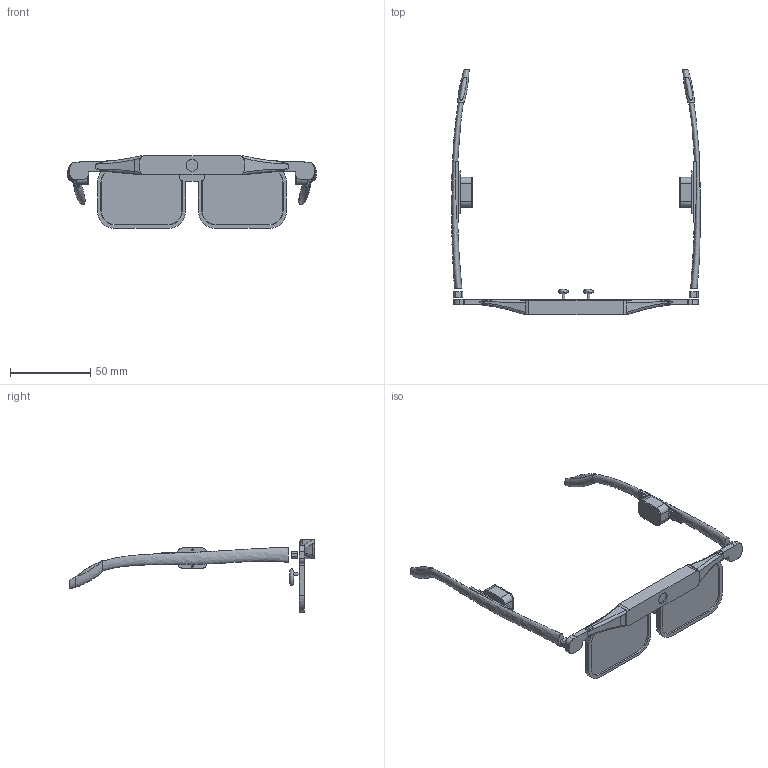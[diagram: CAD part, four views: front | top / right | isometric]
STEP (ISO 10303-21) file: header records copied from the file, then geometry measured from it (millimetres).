
FILE_DESCRIPTION(('FreeCAD Model'),'2;1');
FILE_NAME('Open CASCADE Shape Model','2026-10-29T22:55:53',('FreeCAD'),( 'FreeCAD'),'Open CASCADE STEP processor 7.8','FreeCAD','Unknown');
FILE_SCHEMA(('AUTOMOTIVE_DESIGN { 1 0 10303 214 1 1 1 1 }'));
Length unit declared in the file: millimetre
Products named in the file (1): Open CASCADE STEP translator 7.8 1
Bounding box: 155.61 x 153.6 x 45.4 mm (x, y, z)
Volume: 25732.4 mm3; surface area: 30669.4 mm2
Topology: 21 solids, 21 shells, 351 faces, 918 edges, 606 vertices
Faces by surface type: plane 165, bspline 106, cylinder 80
Full cylindrical faces by diameter (mm): 1.2 x4, 1.6 x2, 1.8 x2, 2.4 x1, 7.4 x1
Entity records: 22855 total; most frequent: CARTESIAN_POINT 15047, ORIENTED_EDGE 1824, DIRECTION 1261, EDGE_CURVE 912, VERTEX_POINT 604, AXIS2_PLACEMENT_3D 425, LINE 411, VECTOR 411
